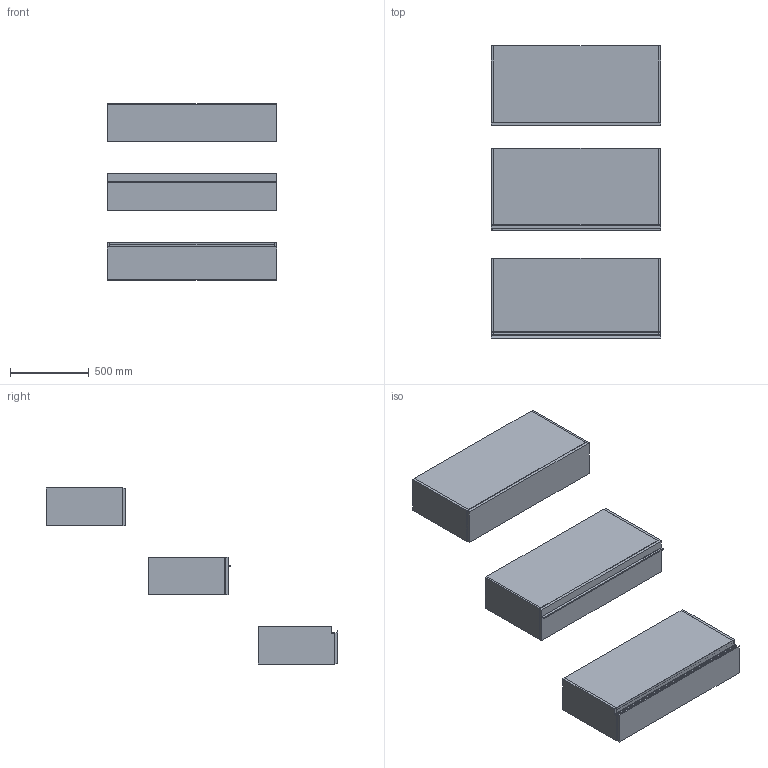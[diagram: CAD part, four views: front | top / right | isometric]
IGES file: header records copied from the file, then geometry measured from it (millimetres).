
Start section: Data from Parasolid IGES Translator 19.0.9, Copyright(c) 2006 Siemens PL M Software. All Rights Reserved.
Global section: file name: noorth-SI-H 24 D 51 W 108_8313.igs; native system: By Siemens PLM Incorporated; preprocessor: XPlus GENERIC/IGES 19.0.9; author: Noname; organization: Noname; date: 20200530.121100; units: metre
Bounding box: 1080.01 x 1857.1 x 1120 mm (x, y, z)
Volume: 75851596.4 mm3; surface area: 11049549.7 mm2
Topology: 20 solids, 20 shells, 178 faces, 382 edges, 234 vertices
Faces by surface type: plane 134, extrusion 16, bspline 16, cylinder 12
